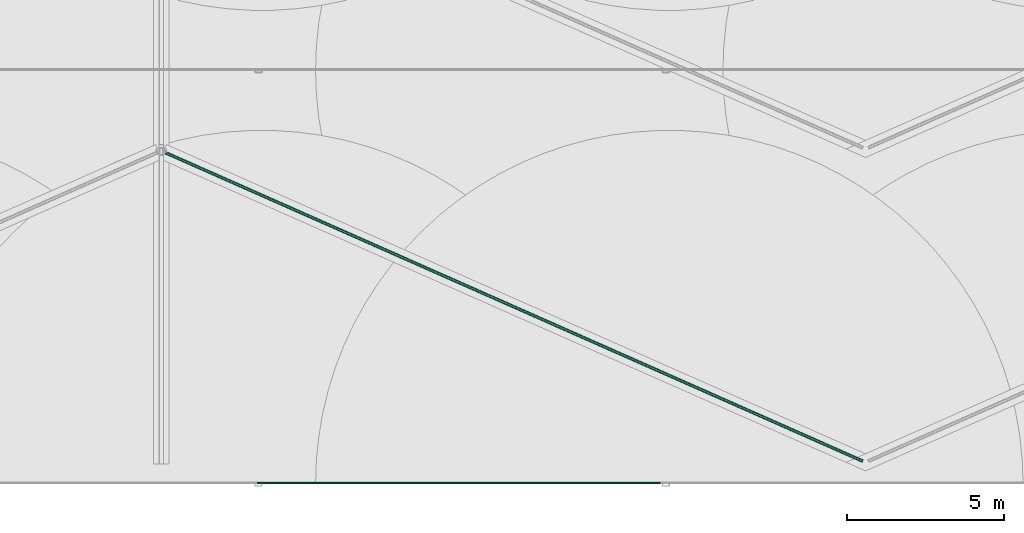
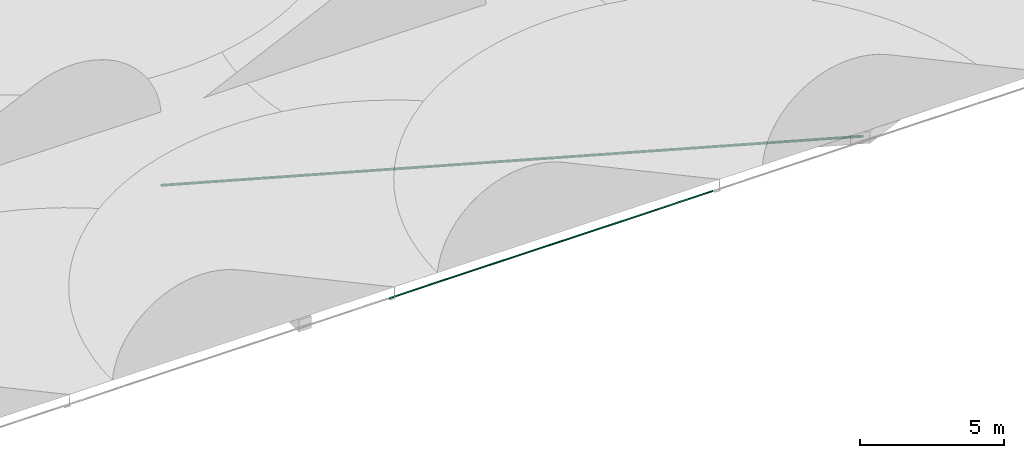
# One storey, part 10 of 166: 2 flow segments.
"""IFC2X3 building model written with IfcOpenShell, lengths in metres."""

from ifc_helpers import new_model, entity, si_unit, converted_unit, direction, frame, frame_2d, origin, place, context, subcontext, project, spatial, circle, extrude, type_object, element, save


model = new_model("IFC2X3")

# Units and contexts
model_context = context("Model", 3, precision=1e-05, world=origin(), true_north=direction((6.123233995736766e-17, 1.0)))
body_context = subcontext(model_context, "Body", "Model", "MODEL_VIEW")
ifc_project = project(units=[si_unit("LENGTHUNIT", "METRE"), converted_unit("PLANEANGLEUNIT", "DEGREE", entity("IfcPlaneAngleMeasure", 0.017453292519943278), si_unit("PLANEANGLEUNIT", "RADIAN"), dimensions=[0, 0, 0, 0, 0, 0, 0]), si_unit("AREAUNIT", "SQUARE_METRE")], contexts=[model_context])

# Site, building, storey
site_placement = place(None, origin())
site = spatial("IfcSite", under=ifc_project, at=site_placement, Name="Default", CompositionType="ELEMENT")
building_placement = place(site_placement, origin())
building = spatial("IfcBuilding", under=site, at=building_placement, Name="CASA DE ACOLHIDA PARA IDOSOS", CompositionType="ELEMENT")
storey_placement = place(building_placement, frame((0.0, 0.0, -1.7499999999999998)))
storey = spatial("IfcBuildingStorey", under=building, at=storey_placement, Name="IMPLANTAÇÃO DRENAGEM", CompositionType="ELEMENT", Elevation=-1.7499999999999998)

# Flow segments
pipe_segment_type_1 = type_object("IfcPipeSegmentType", Name="Tipos de tubos:PLUV_Tubo PEAD Corrugado", PredefinedType="NOTDEFINED")
flow_segment_1_placement = place(storey_placement, origin())
element("IfcFlowSegment", 1, at=flow_segment_1_placement, inside=storey, type_object=pipe_segment_type_1, Name="Tipos de tubos:PLUV_Tubo PEAD Corrugado", ObjectType="Tipos de tubos:PLUV_Tubo PEAD Corrugado", context=body_context, shape_type="SweptSolid", body=[
    extrude(circle(Radius=0.05, at=frame_2d((-7.617807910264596e-16, 4.3990880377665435e-17), x_axis=(1.0, 0.0))), frame((-21.981366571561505, -6.145057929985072, -0.7947900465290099), z_axis=(0.9144899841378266, -0.4044849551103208, 0.009999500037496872), x_axis=(0.4045051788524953, 0.914535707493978, 0.0)), (0.0, 0.0, 1.0), 24.480228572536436),
])
pipe_segment_type_2 = type_object("IfcPipeSegmentType", Name="Tipos de tubos:AF_Tubo Marrom Soldável", PredefinedType="NOTDEFINED")
flow_segment_2_placement = place(storey_placement, origin())
element("IfcFlowSegment", 2, at=flow_segment_2_placement, inside=storey, type_object=pipe_segment_type_2, Name="Tipos de tubos:AF_Tubo Marrom Soldável", ObjectType="Tipos de tubos:AF_Tubo Marrom Soldável", context=body_context, shape_type="SweptSolid", body=[
    extrude(circle(Radius=0.025, at=frame_2d((0.0, -2.707167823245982e-16), x_axis=(1.0, 0.0))), frame((-18.9583488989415, -16.74505792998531, -0.19999999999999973), z_axis=(1.0, 0.0, 0.0), x_axis=(0.0, -1.0, 0.0)), (0.0, 0.0, 1.0), 12.9348),
])

save(model, "model.ifc")
